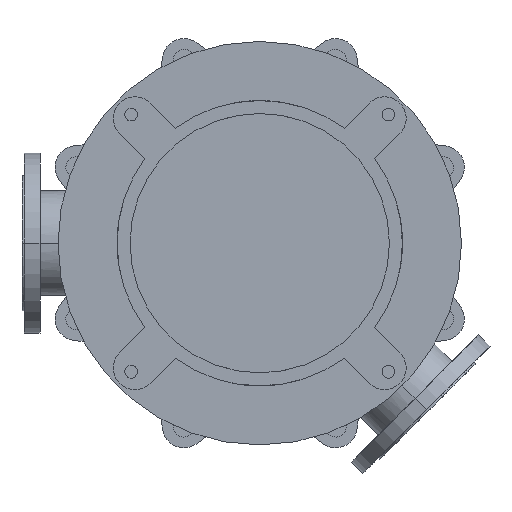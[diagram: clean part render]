
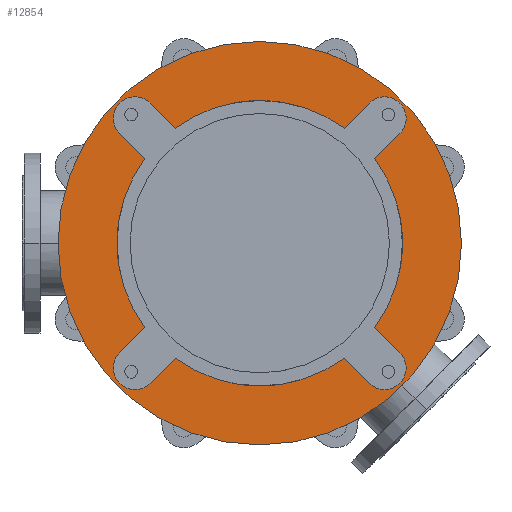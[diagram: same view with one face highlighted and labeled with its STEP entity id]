
A CAD part, front view. The second image highlights one B-rep face of the part: STEP entity #12854.
In plain terms, the highlighted planar face has unit normal (0, -1, 0).
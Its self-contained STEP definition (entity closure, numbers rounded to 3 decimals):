
#2516=CARTESIAN_POINT('',(0.,-25.,0.));
#2517=DIRECTION('',(0.,1.,0.));
#2518=DIRECTION('',(0.592,0.,-0.806));
#2519=AXIS2_PLACEMENT_3D('',#2516,#2517,#2518);
#2534=CARTESIAN_POINT('',(0.,-25.,0.));
#2535=DIRECTION('',(0.,1.,0.));
#2536=DIRECTION('',(0.806,0.,0.592));
#2537=AXIS2_PLACEMENT_3D('',#2534,#2535,#2536);
#2561=CARTESIAN_POINT('',(0.,-25.,0.));
#2562=DIRECTION('',(0.,1.,0.));
#2563=DIRECTION('',(-0.806,0.,-0.592));
#2564=AXIS2_PLACEMENT_3D('',#2561,#2562,#2563);
#2570=CARTESIAN_POINT('',(0.,-25.,0.));
#2571=DIRECTION('',(0.,1.,0.));
#2572=DIRECTION('',(-0.592,0.,0.806));
#2573=AXIS2_PLACEMENT_3D('',#2570,#2571,#2572);
#2748=CARTESIAN_POINT('',(0.,-25.,0.));
#2749=DIRECTION('',(0.,-1.,0.));
#2750=DIRECTION('',(-1.,0.,0.));
#2751=AXIS2_PLACEMENT_3D('',#2748,#2749,#2750);
#2753=CARTESIAN_POINT('',(0.,-25.,0.));
#2754=DIRECTION('',(0.,1.,0.));
#2755=DIRECTION('',(-1.,0.,0.));
#2756=AXIS2_PLACEMENT_3D('',#2753,#2754,#2755);
#2758=CARTESIAN_POINT('',(-173.241,-25.,173.241));
#2759=DIRECTION('',(0.,-1.,0.));
#2760=DIRECTION('',(0.707,0.,0.707));
#2761=AXIS2_PLACEMENT_3D('',#2758,#2759,#2760);
#2763=DIRECTION('',(0.707,0.,-0.707));
#2764=VECTOR('',#2763,49.286);
#2765=CARTESIAN_POINT('',(-194.454,-25.,152.028));
#2766=LINE('',#2765,#2764);
#2767=DIRECTION('',(-0.707,0.,-0.707));
#2768=VECTOR('',#2767,49.286);
#2769=CARTESIAN_POINT('',(-159.604,-25.,-117.178));
#2770=LINE('',#2769,#2768);
#2771=CARTESIAN_POINT('',(-173.241,-25.,-173.241));
#2772=DIRECTION('',(0.,-1.,0.));
#2773=DIRECTION('',(-0.707,0.,0.707));
#2774=AXIS2_PLACEMENT_3D('',#2771,#2772,#2773);
#2776=DIRECTION('',(0.707,0.,0.707));
#2777=VECTOR('',#2776,49.286);
#2778=CARTESIAN_POINT('',(-152.028,-25.,-194.454));
#2779=LINE('',#2778,#2777);
#2780=DIRECTION('',(0.707,0.,-0.707));
#2781=VECTOR('',#2780,49.286);
#2782=CARTESIAN_POINT('',(117.178,-25.,-159.604));
#2783=LINE('',#2782,#2781);
#2784=CARTESIAN_POINT('',(173.241,-25.,-173.241));
#2785=DIRECTION('',(0.,-1.,0.));
#2786=DIRECTION('',(-0.707,0.,-0.707));
#2787=AXIS2_PLACEMENT_3D('',#2784,#2785,#2786);
#2789=DIRECTION('',(-0.707,0.,0.707));
#2790=VECTOR('',#2789,49.286);
#2791=CARTESIAN_POINT('',(194.454,-25.,-152.028));
#2792=LINE('',#2791,#2790);
#2793=DIRECTION('',(0.707,0.,0.707));
#2794=VECTOR('',#2793,49.286);
#2795=CARTESIAN_POINT('',(159.604,-25.,117.178));
#2796=LINE('',#2795,#2794);
#2797=CARTESIAN_POINT('',(173.241,-25.,173.241));
#2798=DIRECTION('',(0.,-1.,0.));
#2799=DIRECTION('',(0.707,0.,-0.707));
#2800=AXIS2_PLACEMENT_3D('',#2797,#2798,#2799);
#2802=DIRECTION('',(-0.707,0.,-0.707));
#2803=VECTOR('',#2802,49.286);
#2804=CARTESIAN_POINT('',(152.028,-25.,194.454));
#2805=LINE('',#2804,#2803);
#2806=DIRECTION('',(-0.707,0.,0.707));
#2807=VECTOR('',#2806,49.286);
#2808=CARTESIAN_POINT('',(-117.178,-25.,159.604));
#2809=LINE('',#2808,#2807);
#8367=CARTESIAN_POINT('',(-280.,-25.,0.));
#8368=CARTESIAN_POINT('',(280.,-25.,0.));
#8369=VERTEX_POINT('',#8367);
#8370=VERTEX_POINT('',#8368);
#8391=CARTESIAN_POINT('',(-194.454,-25.,-152.028));
#8392=CARTESIAN_POINT('',(-152.028,-25.,-194.454));
#8393=VERTEX_POINT('',#8391);
#8394=VERTEX_POINT('',#8392);
#8395=CARTESIAN_POINT('',(-117.178,-25.,-159.604));
#8396=VERTEX_POINT('',#8395);
#8397=CARTESIAN_POINT('',(-159.604,-25.,-117.178));
#8398=VERTEX_POINT('',#8397);
#8407=CARTESIAN_POINT('',(152.028,-25.,-194.454));
#8408=CARTESIAN_POINT('',(194.454,-25.,-152.028));
#8409=VERTEX_POINT('',#8407);
#8410=VERTEX_POINT('',#8408);
#8411=CARTESIAN_POINT('',(159.604,-25.,-117.178));
#8412=VERTEX_POINT('',#8411);
#8413=CARTESIAN_POINT('',(117.178,-25.,-159.604));
#8414=VERTEX_POINT('',#8413);
#8423=CARTESIAN_POINT('',(194.454,-25.,152.028));
#8424=CARTESIAN_POINT('',(152.028,-25.,194.454));
#8425=VERTEX_POINT('',#8423);
#8426=VERTEX_POINT('',#8424);
#8427=CARTESIAN_POINT('',(117.178,-25.,159.604));
#8428=VERTEX_POINT('',#8427);
#8429=CARTESIAN_POINT('',(159.604,-25.,117.178));
#8430=VERTEX_POINT('',#8429);
#8439=CARTESIAN_POINT('',(-152.028,-25.,194.454));
#8440=CARTESIAN_POINT('',(-194.454,-25.,152.028));
#8441=VERTEX_POINT('',#8439);
#8442=VERTEX_POINT('',#8440);
#8443=CARTESIAN_POINT('',(-159.604,-25.,117.178));
#8444=VERTEX_POINT('',#8443);
#8445=CARTESIAN_POINT('',(-117.178,-25.,159.604));
#8446=VERTEX_POINT('',#8445);
#12814=CARTESIAN_POINT('',(0.,-25.,0.));
#12815=DIRECTION('',(0.,-1.,0.));
#12816=DIRECTION('',(-1.,0.,0.));
#12817=AXIS2_PLACEMENT_3D('',#12814,#12815,#12816);
#12818=PLANE('',#12817);
#12820=ORIENTED_EDGE('',*,*,#12819,.F.);
#12822=ORIENTED_EDGE('',*,*,#12821,.T.);
#12823=EDGE_LOOP('',(#12820,#12822));
#12824=FACE_OUTER_BOUND('',#12823,.F.);
#12826=ORIENTED_EDGE('',*,*,#12825,.T.);
#12828=ORIENTED_EDGE('',*,*,#12827,.T.);
#12829=ORIENTED_EDGE('',*,*,#12767,.F.);
#12831=ORIENTED_EDGE('',*,*,#12830,.T.);
#12833=ORIENTED_EDGE('',*,*,#12832,.T.);
#12835=ORIENTED_EDGE('',*,*,#12834,.T.);
#12836=ORIENTED_EDGE('',*,*,#12720,.F.);
#12837=ORIENTED_EDGE('',*,*,#12804,.T.);
#12839=ORIENTED_EDGE('',*,*,#12838,.T.);
#12841=ORIENTED_EDGE('',*,*,#12840,.T.);
#12842=ORIENTED_EDGE('',*,*,#12741,.F.);
#12844=ORIENTED_EDGE('',*,*,#12843,.T.);
#12846=ORIENTED_EDGE('',*,*,#12845,.T.);
#12848=ORIENTED_EDGE('',*,*,#12847,.T.);
#12849=ORIENTED_EDGE('',*,*,#12785,.F.);
#12851=ORIENTED_EDGE('',*,*,#12850,.T.);
#12852=EDGE_LOOP('',(#12826,#12828,#12829,#12831,#12833,#12835,#12836,#12837,
#12839,#12841,#12842,#12844,#12846,#12848,#12849,#12851));
#12853=FACE_BOUND('',#12852,.F.);
#12854=ADVANCED_FACE('',(#12824,#12853),#12818,.T.);
#2520=CIRCLE('',#2519,198.);
#2538=CIRCLE('',#2537,198.);
#2565=CIRCLE('',#2564,198.);
#2574=CIRCLE('',#2573,198.);
#2752=CIRCLE('',#2751,280.);
#2757=CIRCLE('',#2756,280.);
#2762=CIRCLE('',#2761,30.);
#2775=CIRCLE('',#2774,30.);
#2788=CIRCLE('',#2787,30.);
#2801=CIRCLE('',#2800,30.);
#12720=EDGE_CURVE('',#8414,#8396,#2520,.T.);
#12741=EDGE_CURVE('',#8430,#8412,#2538,.T.);
#12767=EDGE_CURVE('',#8398,#8444,#2565,.T.);
#12785=EDGE_CURVE('',#8446,#8428,#2574,.T.);
#12804=EDGE_CURVE('',#8414,#8409,#2783,.T.);
#12819=EDGE_CURVE('',#8369,#8370,#2752,.T.);
#12821=EDGE_CURVE('',#8369,#8370,#2757,.T.);
#12825=EDGE_CURVE('',#8441,#8442,#2762,.T.);
#12827=EDGE_CURVE('',#8442,#8444,#2766,.T.);
#12830=EDGE_CURVE('',#8398,#8393,#2770,.T.);
#12832=EDGE_CURVE('',#8393,#8394,#2775,.T.);
#12834=EDGE_CURVE('',#8394,#8396,#2779,.T.);
#12838=EDGE_CURVE('',#8409,#8410,#2788,.T.);
#12840=EDGE_CURVE('',#8410,#8412,#2792,.T.);
#12843=EDGE_CURVE('',#8430,#8425,#2796,.T.);
#12845=EDGE_CURVE('',#8425,#8426,#2801,.T.);
#12847=EDGE_CURVE('',#8426,#8428,#2805,.T.);
#12850=EDGE_CURVE('',#8446,#8441,#2809,.T.);
